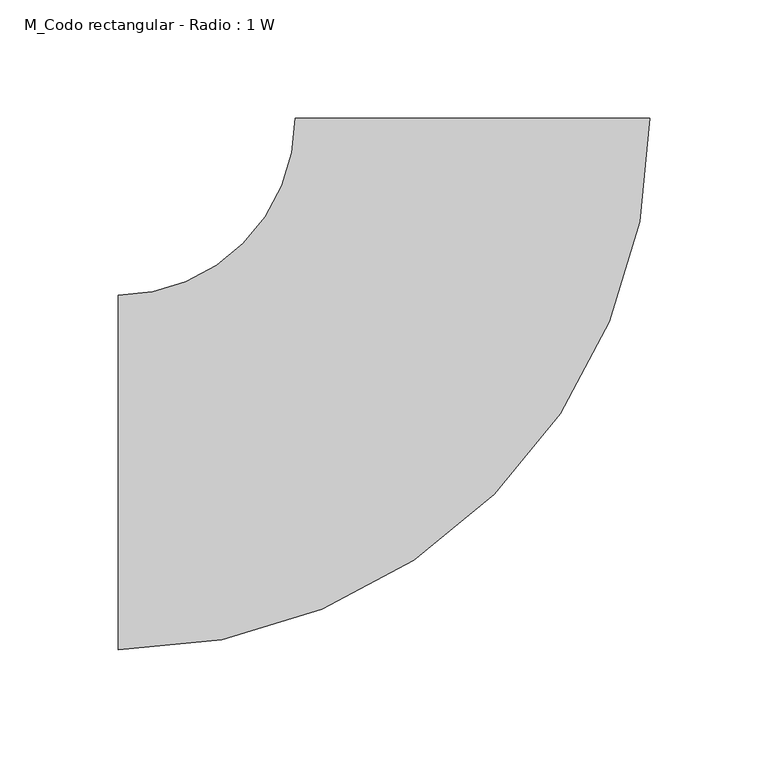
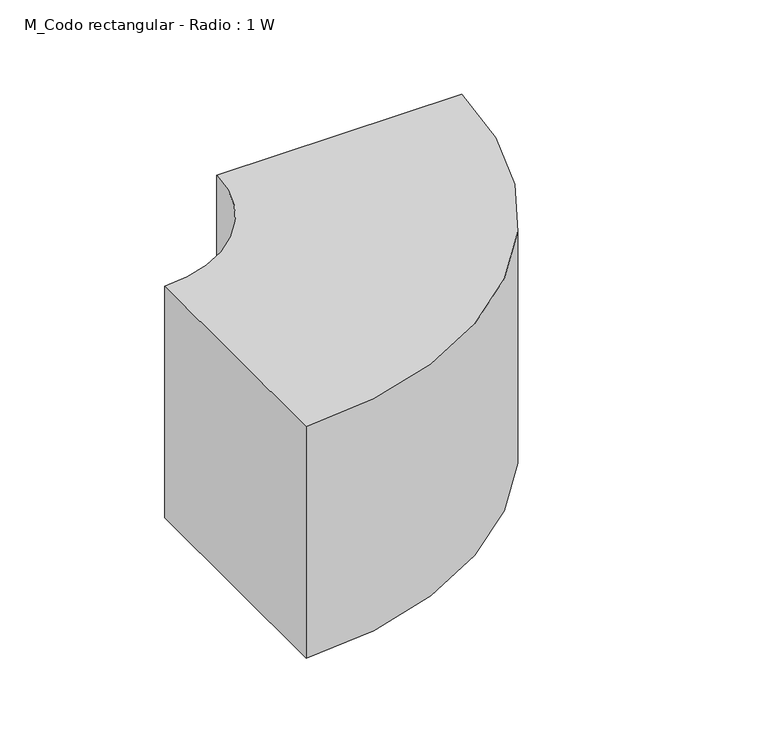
"""IFC4 building model written with IfcOpenShell, lengths in millimetres: duct fitting geometry, M_Codo rectangular - Radio : 1 W."""

from ifc_helpers import new_model, si_unit, point, frame, frame_2d, origin, place, context, project, spatial, polyline, circle_curve, trimmed, segment, composite_curve, outline, extrude, source, transform, mapped, element, save


def m_codo_rectangular_radio_1_w_e8c11995(model_context):
    return source(origin(), model_context, "Body", "SweptSolid", [
        extrude(outline(composite_curve([segment(trimmed(circle_curve(frame_2d((-150.0, 150.0)), 225.0), [point((75.0, 150.0))], [point((-150.0, -75.0))], False, "CARTESIAN"), True, "CONTINUOUS"), segment(polyline([(-150.0, -75.0), (-150.0, 75.0)]), True, "CONTINUOUS"), segment(trimmed(circle_curve(frame_2d((-150.0, 150.0)), 75.0), [point((-150.0, 75.0))], [point((-75.0, 150.0))], True, "CARTESIAN"), True, "CONTINUOUS"), segment(polyline([(-75.0, 150.0), (75.0, 150.0)]), True, "CONTINUOUS")], self_intersect=False)), frame((0.0, 0.0, -75.0), z_axis=(0.0, 0.0, 1.0), x_axis=(1.0, 0.0, 0.0)), (0.0, 0.0, 1.0), 150.0),
    ])


if __name__ == "__main__":
    model = new_model("IFC4")
    model_context = context("Model", 3, world=origin())
    ifc_project = project(units=[si_unit("LENGTHUNIT", "METRE", prefix="MILLI")], contexts=[model_context])
    site = spatial("IfcSite", under=ifc_project)
    building = spatial("IfcBuilding", under=site)
    placement = place(None, origin())
    m_codo_rectangular_radio_1_w_shape = m_codo_rectangular_radio_1_w_e8c11995(model_context)
    element("IfcDuctFitting", 1, ObjectType="M_Codo rectangular - Radio : 1 W", at=placement, inside=building, context=model_context, shape_type="MappedRepresentation", body=[
        mapped(m_codo_rectangular_radio_1_w_shape, transform((0.0, 0.0, 0.0), x_axis=(1.0, 0.0, 0.0), y_axis=(0.0, 1.0, 0.0), z_axis=(0.0, 0.0, 1.0))),
    ])
    save(model, "model.ifc")
